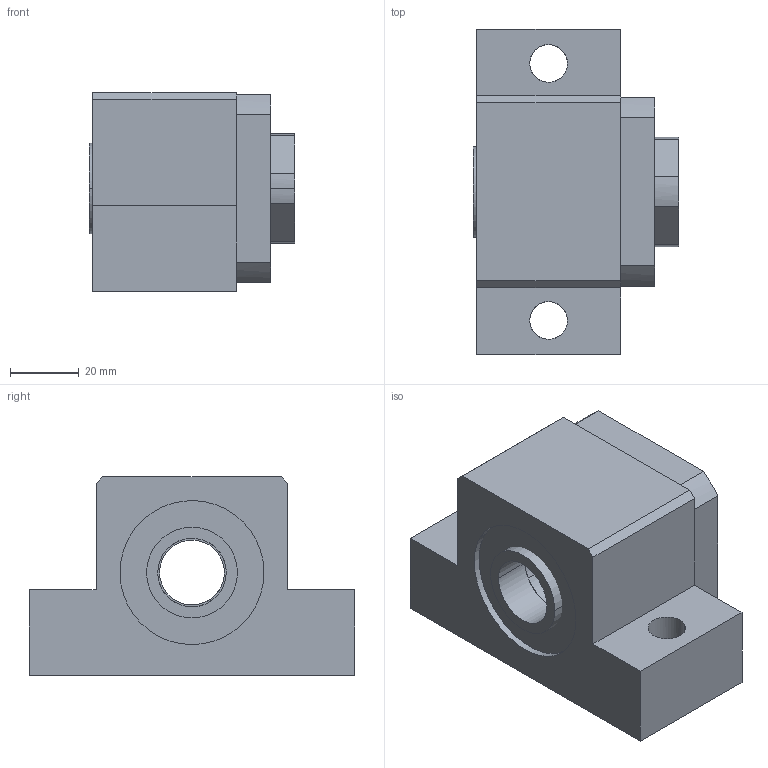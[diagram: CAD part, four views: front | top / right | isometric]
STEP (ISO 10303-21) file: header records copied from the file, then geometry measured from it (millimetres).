
FILE_DESCRIPTION(('CATIA V5 STEP Exchange'),'2;1');
FILE_NAME('D:\서포트 완성도면\EK\EK20.stp','2014-03-24T10:12:02+00:00',('none'),('none'),'CATIA Version 5 Release 18 GA (IN-10)','CATIA V5 STEP AP203','none');
FILE_SCHEMA(('CONFIG_CONTROL_DESIGN'));
Length unit declared in the file: millimetre
Products named in the file (1): EK20
Assembly tree (4 placements, depth 2):
  EK20
    #56
    #1688  x2
    #1964
Bounding box: 60 x 95 x 58 mm (x, y, z)
Volume: 183632.2 mm3; surface area: 34686.1 mm2
Topology: 4 solids, 4 shells, 65 faces, 158 edges, 106 vertices
Faces by surface type: cylinder 34, plane 31
Entity records: 2443 total; most frequent: CARTESIAN_POINT 1018, ORIENTED_EDGE 292, DIRECTION 221, EDGE_CURVE 146, VERTEX_POINT 98, VECTOR 86, LINE 86, AXIS2_PLACEMENT_3D 75
